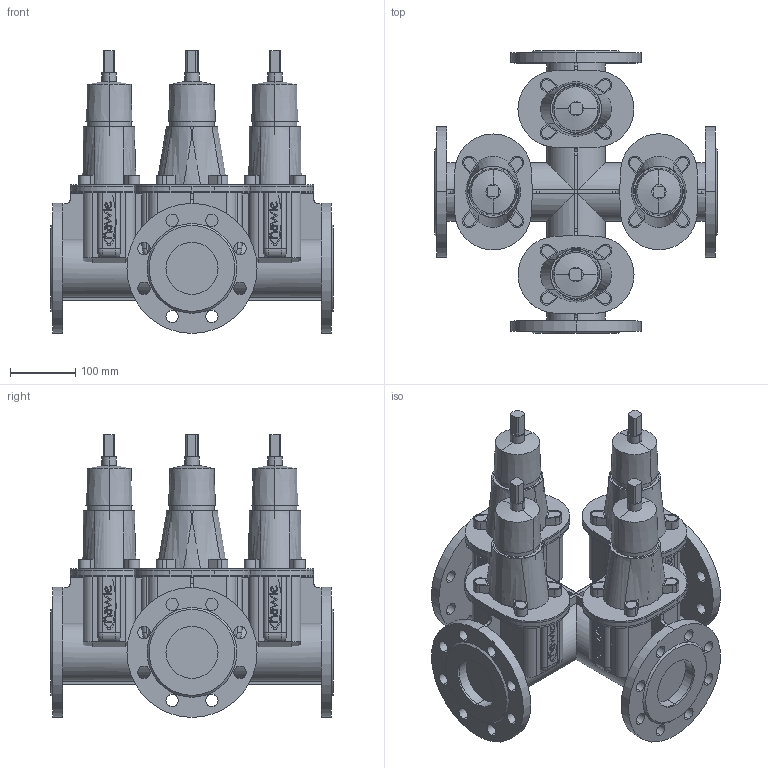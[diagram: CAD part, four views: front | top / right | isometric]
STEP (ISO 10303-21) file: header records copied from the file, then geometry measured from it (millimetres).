
FILE_DESCRIPTION(('STEP AP214'),'1');
FILE_NAME('S:/EK/USER/CAT6/3DHomepage_27-04-2012/neu_23-01-2013/4400E2/4400E2_PN16_DN80_4.STP','2013-02-22T08:09:43',(' '),(' '),'Spatial InterOp 3D',' ',' ');
FILE_SCHEMA(('automotive_design'));
Length unit declared in the file: millimetre
Products named in the file (181): 3D-Objekt
Bounding box: 435 x 435 x 435 mm (x, y, z)
Volume: 16710976.3 mm3; surface area: 2054484.3 mm2
Topology: 181 solids, 181 shells, 1636 faces, 3788 edges, 2522 vertices
Faces by surface type: plane 932, cylinder 616, bspline 40, cone 32, torus 16
Entity records: 64777 total; most frequent: CARTESIAN_POINT 8807, DIRECTION 8762, ORIENTED_EDGE 7576, EDGE_CURVE 3788, AXIS2_PLACEMENT_3D 3197, VERTEX_POINT 2522, LINE 2368, VECTOR 2368
